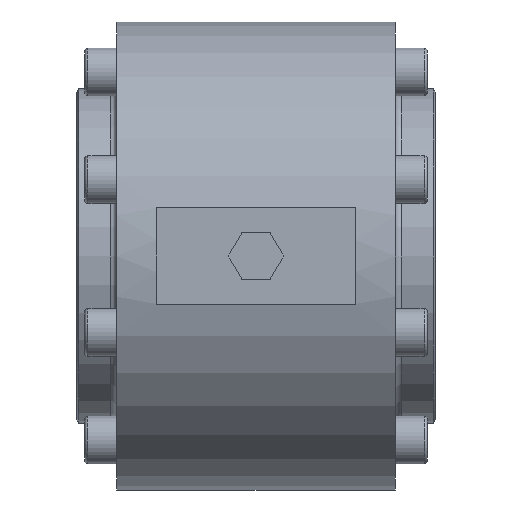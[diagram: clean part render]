
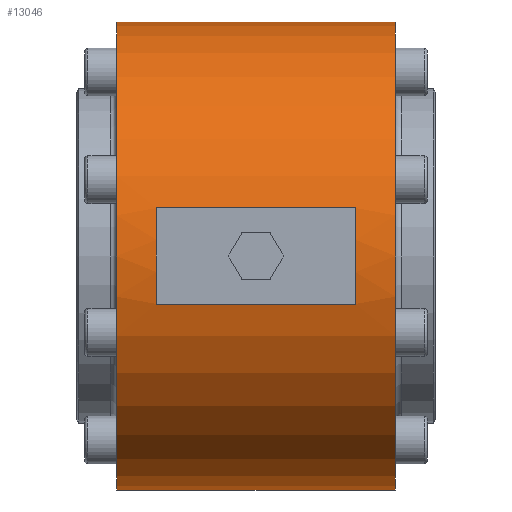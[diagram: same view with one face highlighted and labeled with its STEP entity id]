
A CAD part, left-side view. The second image highlights one B-rep face of the part: STEP entity #13046.
In plain terms, the highlighted cylindrical face has radius 117.5 mm (diameter 235 mm), a full revolution.
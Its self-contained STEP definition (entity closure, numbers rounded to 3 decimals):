
#429=CYLINDRICAL_SURFACE('',#13728,117.5);
#624=LINE('',#17958,#1355);
#625=LINE('',#17963,#1356);
#626=LINE('',#17966,#1357);
#627=LINE('',#17971,#1358);
#1355=VECTOR('',#15055,1000.);
#1356=VECTOR('',#15058,1000.);
#1357=VECTOR('',#15061,1000.);
#1358=VECTOR('',#15064,1000.);
#2450=ORIENTED_EDGE('',*,*,#4830,.T.);
#2451=ORIENTED_EDGE('',*,*,#4831,.T.);
#2452=ORIENTED_EDGE('',*,*,#4832,.T.);
#2453=ORIENTED_EDGE('',*,*,#4833,.T.);
#2454=ORIENTED_EDGE('',*,*,#4834,.T.);
#2455=ORIENTED_EDGE('',*,*,#4835,.F.);
#2456=ORIENTED_EDGE('',*,*,#4836,.F.);
#2457=ORIENTED_EDGE('',*,*,#4837,.F.);
#2458=ORIENTED_EDGE('',*,*,#4838,.F.);
#2459=ORIENTED_EDGE('',*,*,#4839,.F.);
#4830=EDGE_CURVE('',#6056,#6056,#6860,.T.);
#4831=EDGE_CURVE('',#6057,#6058,#624,.T.);
#4832=EDGE_CURVE('',#6058,#6059,#6861,.F.);
#4833=EDGE_CURVE('',#6059,#6060,#625,.F.);
#4834=EDGE_CURVE('',#6060,#6057,#6862,.F.);
#4835=EDGE_CURVE('',#6061,#6062,#626,.F.);
#4836=EDGE_CURVE('',#6063,#6061,#6863,.F.);
#4837=EDGE_CURVE('',#6064,#6063,#627,.T.);
#4838=EDGE_CURVE('',#6062,#6064,#6864,.F.);
#4839=EDGE_CURVE('',#6065,#6065,#6865,.T.);
#6056=VERTEX_POINT('',#17957);
#6057=VERTEX_POINT('',#17959);
#6058=VERTEX_POINT('',#17960);
#6059=VERTEX_POINT('',#17962);
#6060=VERTEX_POINT('',#17964);
#6061=VERTEX_POINT('',#17967);
#6062=VERTEX_POINT('',#17968);
#6063=VERTEX_POINT('',#17970);
#6064=VERTEX_POINT('',#17972);
#6065=VERTEX_POINT('',#17975);
#6860=CIRCLE('',#13729,117.5);
#6861=CIRCLE('',#13730,117.5);
#6862=CIRCLE('',#13731,117.5);
#6863=CIRCLE('',#13732,117.5);
#6864=CIRCLE('',#13733,117.5);
#6865=CIRCLE('',#13734,117.5);
#7308=EDGE_LOOP('',(#2450));
#7309=EDGE_LOOP('',(#2451,#2452,#2453,#2454));
#7310=EDGE_LOOP('',(#2455,#2456,#2457,#2458));
#7311=EDGE_LOOP('',(#2459));
#8051=FACE_BOUND('',#7308,.T.);
#8052=FACE_BOUND('',#7309,.T.);
#8053=FACE_BOUND('',#7310,.T.);
#8054=FACE_BOUND('',#7311,.T.);
#13046=ADVANCED_FACE('',(#8051,#8052,#8053,#8054),#429,.T.);
#13728=AXIS2_PLACEMENT_3D('',#17955,#15051,#15052);
#13729=AXIS2_PLACEMENT_3D('',#17956,#15053,#15054);
#13730=AXIS2_PLACEMENT_3D('',#17961,#15056,#15057);
#13731=AXIS2_PLACEMENT_3D('',#17965,#15059,#15060);
#13732=AXIS2_PLACEMENT_3D('',#17969,#15062,#15063);
#13733=AXIS2_PLACEMENT_3D('',#17973,#15065,#15066);
#13734=AXIS2_PLACEMENT_3D('',#17974,#15067,#15068);
#15051=DIRECTION('',(0.,-1.,0.));
#15052=DIRECTION('',(0.,0.,-1.));
#15053=DIRECTION('',(0.,-1.,0.));
#15054=DIRECTION('',(0.,0.,-1.));
#15055=DIRECTION('',(0.,-1.,0.));
#15056=DIRECTION('',(0.,1.,0.));
#15057=DIRECTION('',(0.,0.,1.));
#15058=DIRECTION('',(0.,-1.,0.));
#15059=DIRECTION('',(0.,-1.,0.));
#15060=DIRECTION('',(0.,0.,-1.));
#15061=DIRECTION('',(0.,-1.,0.));
#15062=DIRECTION('',(0.,-1.,0.));
#15063=DIRECTION('',(0.,0.,-1.));
#15064=DIRECTION('',(0.,-1.,0.));
#15065=DIRECTION('',(0.,1.,0.));
#15066=DIRECTION('',(0.,0.,1.));
#15067=DIRECTION('',(0.,-1.,0.));
#15068=DIRECTION('',(0.,0.,-1.));
#17955=CARTESIAN_POINT('',(0.,0.,0.));
#17956=CARTESIAN_POINT('',(0.,70.,0.));
#17957=CARTESIAN_POINT('',(0.,70.,-117.5));
#17958=CARTESIAN_POINT('',(103.,0.,-56.544));
#17959=CARTESIAN_POINT('',(103.,50.,-56.544));
#17960=CARTESIAN_POINT('',(103.,-50.,-56.544));
#17961=CARTESIAN_POINT('',(0.,-50.,0.));
#17962=CARTESIAN_POINT('',(103.,-50.,56.544));
#17963=CARTESIAN_POINT('',(103.,0.,56.544));
#17964=CARTESIAN_POINT('',(103.,50.,56.544));
#17965=CARTESIAN_POINT('',(0.,50.,0.));
#17966=CARTESIAN_POINT('',(-115.,0.,24.109));
#17967=CARTESIAN_POINT('',(-115.,-50.,24.109));
#17968=CARTESIAN_POINT('',(-115.,50.,24.109));
#17969=CARTESIAN_POINT('',(0.,-50.,0.));
#17970=CARTESIAN_POINT('',(-115.,-50.,-24.109));
#17971=CARTESIAN_POINT('',(-115.,0.,-24.109));
#17972=CARTESIAN_POINT('',(-115.,50.,-24.109));
#17973=CARTESIAN_POINT('',(0.,50.,0.));
#17974=CARTESIAN_POINT('',(0.,-70.,0.));
#17975=CARTESIAN_POINT('',(0.,-70.,-117.5));
